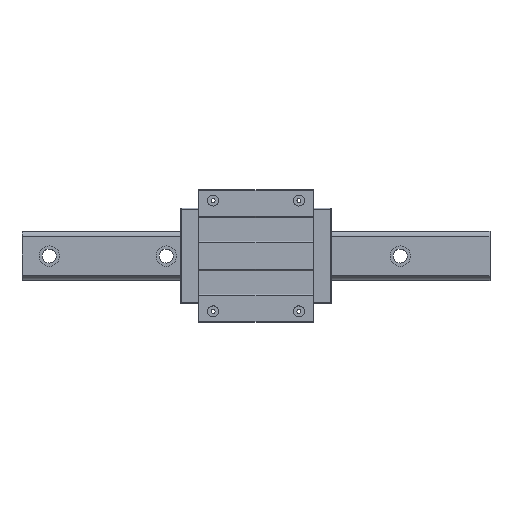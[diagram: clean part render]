
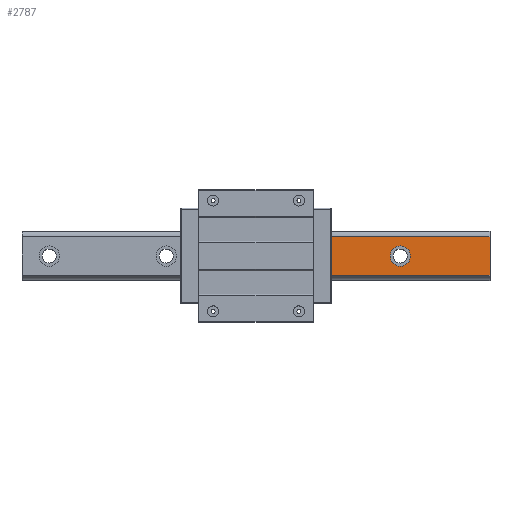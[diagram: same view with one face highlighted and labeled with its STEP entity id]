
A CAD part, top view. The second image highlights one B-rep face of the part: STEP entity #2787.
In plain terms, the highlighted planar face has unit normal (0, 0, 1).
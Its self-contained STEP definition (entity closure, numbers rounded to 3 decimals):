
#11 = VERTEX_POINT ( 'NONE', #2907 ) ;
#25 = EDGE_CURVE ( 'NONE', #5850, #5387, #3392, .T. ) ;
#50 = CIRCLE ( 'NONE', #430, 13. ) ;
#208 = FACE_BOUND ( 'NONE', #3316, .T. ) ;
#294 = CARTESIAN_POINT ( 'NONE',  ( 185., 0., 53. ) ) ;
#345 = EDGE_CURVE ( 'NONE', #5850, #11, #4749, .T. ) ;
#419 = DIRECTION ( 'NONE',  ( 0., 0., -1. ) ) ;
#430 = AXIS2_PLACEMENT_3D ( 'NONE', #294, #419, #3966 ) ;
#589 = VECTOR ( 'NONE', #3378, 1000. ) ;
#601 = DIRECTION ( 'NONE',  ( 0., 0., -1. ) ) ;
#714 = VERTEX_POINT ( 'NONE', #2363 ) ;
#762 = PLANE ( 'NONE',  #2502 ) ;
#872 = CARTESIAN_POINT ( 'NONE',  ( 300., -24.864, 53. ) ) ;
#1282 = FACE_OUTER_BOUND ( 'NONE', #5500, .T. ) ;
#1316 = DIRECTION ( 'NONE',  ( 0., -1., 0. ) ) ;
#1437 = ORIENTED_EDGE ( 'NONE', *, *, #345, .T. ) ;
#1509 = ORIENTED_EDGE ( 'NONE', *, *, #4755, .T. ) ;
#1728 = VERTEX_POINT ( 'NONE', #2475 ) ;
#1780 = LINE ( 'NONE', #3918, #5861 ) ;
#1996 = ORIENTED_EDGE ( 'NONE', *, *, #25, .F. ) ;
#2051 = DIRECTION ( 'NONE',  ( -1., 0., 0. ) ) ;
#2154 = CARTESIAN_POINT ( 'NONE',  ( 96.7, -24.864, 53. ) ) ;
#2363 = CARTESIAN_POINT ( 'NONE',  ( 198., 0., 53. ) ) ;
#2464 = CARTESIAN_POINT ( 'NONE',  ( 185., 0., 53. ) ) ;
#2475 = CARTESIAN_POINT ( 'NONE',  ( 172., 0., 53. ) ) ;
#2502 = AXIS2_PLACEMENT_3D ( 'NONE', #3487, #5302, #1316 ) ;
#2552 = CARTESIAN_POINT ( 'NONE',  ( 300., 24.864, 53. ) ) ;
#2613 = ORIENTED_EDGE ( 'NONE', *, *, #4408, .T. ) ;
#2666 = EDGE_CURVE ( 'NONE', #1728, #714, #4619, .T. ) ;
#2787 = ADVANCED_FACE ( 'NONE', ( #208, #1282 ), #762, .F. ) ;
#2894 = CARTESIAN_POINT ( 'NONE',  ( 300., 24.864, 53. ) ) ;
#2907 = CARTESIAN_POINT ( 'NONE',  ( 96.7, 24.864, 53. ) ) ;
#3316 = EDGE_LOOP ( 'NONE', ( #3793, #2613 ) ) ;
#3343 = ORIENTED_EDGE ( 'NONE', *, *, #5269, .T. ) ;
#3378 = DIRECTION ( 'NONE',  ( -1., 0., 0. ) ) ;
#3392 = LINE ( 'NONE', #4301, #4583 ) ;
#3487 = CARTESIAN_POINT ( 'NONE',  ( 300., 0., 53. ) ) ;
#3573 = CARTESIAN_POINT ( 'NONE',  ( 300., -24.864, 53. ) ) ;
#3661 = AXIS2_PLACEMENT_3D ( 'NONE', #2464, #601, #2051 ) ;
#3763 = VECTOR ( 'NONE', #5386, 1000. ) ;
#3793 = ORIENTED_EDGE ( 'NONE', *, *, #2666, .T. ) ;
#3918 = CARTESIAN_POINT ( 'NONE',  ( 96.7, -24.864, 53. ) ) ;
#3966 = DIRECTION ( 'NONE',  ( -1., 0., 0. ) ) ;
#4301 = CARTESIAN_POINT ( 'NONE',  ( 300., 25.2, 53. ) ) ;
#4408 = EDGE_CURVE ( 'NONE', #714, #1728, #50, .T. ) ;
#4583 = VECTOR ( 'NONE', #4680, 1000. ) ;
#4619 = CIRCLE ( 'NONE', #3661, 13. ) ;
#4680 = DIRECTION ( 'NONE',  ( 0., -1., 0. ) ) ;
#4749 = LINE ( 'NONE', #2894, #589 ) ;
#4755 = EDGE_CURVE ( 'NONE', #5103, #5387, #4874, .T. ) ;
#4874 = LINE ( 'NONE', #3573, #3763 ) ;
#5103 = VERTEX_POINT ( 'NONE', #2154 ) ;
#5269 = EDGE_CURVE ( 'NONE', #11, #5103, #1780, .T. ) ;
#5302 = DIRECTION ( 'NONE',  ( 0., 0., -1. ) ) ;
#5386 = DIRECTION ( 'NONE',  ( 1., 0., 0. ) ) ;
#5387 = VERTEX_POINT ( 'NONE', #872 ) ;
#5405 = DIRECTION ( 'NONE',  ( 0., -1., 0. ) ) ;
#5500 = EDGE_LOOP ( 'NONE', ( #1437, #3343, #1509, #1996 ) ) ;
#5850 = VERTEX_POINT ( 'NONE', #2552 ) ;
#5861 = VECTOR ( 'NONE', #5405, 1000. ) ;
